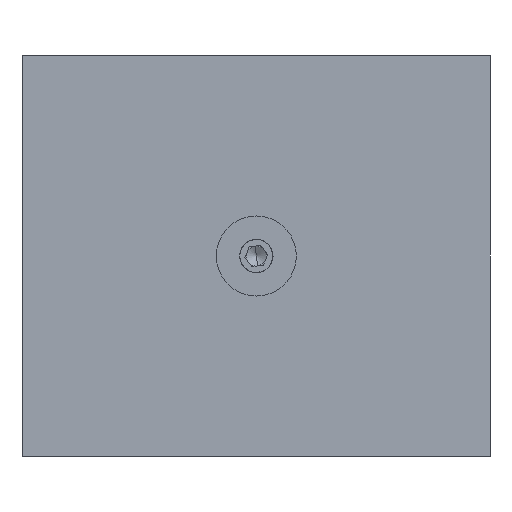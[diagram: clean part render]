
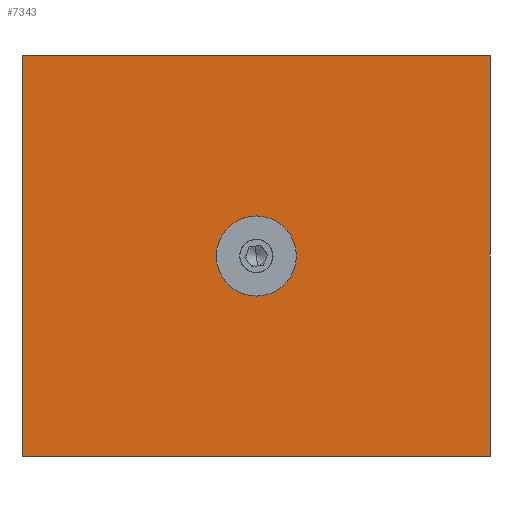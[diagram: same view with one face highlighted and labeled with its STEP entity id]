
A CAD part, front view. The second image highlights one B-rep face of the part: STEP entity #7343.
In plain terms, the highlighted planar face has unit normal (0, -1, 0).
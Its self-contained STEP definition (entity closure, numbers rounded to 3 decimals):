
#179 = DIRECTION ( 'NONE',  ( 1., 0., 0. ) ) ;
#239 = DIRECTION ( 'NONE',  ( 0., 1., 0. ) ) ;
#436 = ORIENTED_EDGE ( 'NONE', *, *, #3684, .T. ) ;
#613 = CARTESIAN_POINT ( 'NONE',  ( 0., -22.5, 0. ) ) ;
#642 = DIRECTION ( 'NONE',  ( 0., 0., -1. ) ) ;
#899 = DIRECTION ( 'NONE',  ( 0., 0., 1. ) ) ;
#1352 = DIRECTION ( 'NONE',  ( 1., 0., 0. ) ) ;
#1363 = VECTOR ( 'NONE', #642, 1000. ) ;
#1595 = VECTOR ( 'NONE', #179, 1000. ) ;
#1631 = FACE_OUTER_BOUND ( 'NONE', #2713, .T. ) ;
#1637 = VERTEX_POINT ( 'NONE', #4042 ) ;
#1762 = ORIENTED_EDGE ( 'NONE', *, *, #4234, .F. ) ;
#1800 = CARTESIAN_POINT ( 'NONE',  ( 17.5, -22.5, 15. ) ) ;
#1846 = DIRECTION ( 'NONE',  ( 0., 0., -1. ) ) ;
#1901 = AXIS2_PLACEMENT_3D ( 'NONE', #2453, #7542, #1907 ) ;
#1907 = DIRECTION ( 'NONE',  ( 0., 0., -1. ) ) ;
#2243 = EDGE_CURVE ( 'NONE', #7212, #6926, #4700, .T. ) ;
#2453 = CARTESIAN_POINT ( 'NONE',  ( 0., -22.5, 0. ) ) ;
#2564 = CARTESIAN_POINT ( 'NONE',  ( 17.5, -22.5, 15. ) ) ;
#2578 = CARTESIAN_POINT ( 'NONE',  ( -17.5, -22.5, 15. ) ) ;
#2710 = CARTESIAN_POINT ( 'NONE',  ( 0., -22.5, -3. ) ) ;
#2713 = EDGE_LOOP ( 'NONE', ( #436, #1762, #8023, #6090 ) ) ;
#2804 = EDGE_CURVE ( 'NONE', #6926, #7212, #4971, .T. ) ;
#2929 = CARTESIAN_POINT ( 'NONE',  ( -17.5, -22.5, 15. ) ) ;
#3226 = AXIS2_PLACEMENT_3D ( 'NONE', #2929, #239, #899 ) ;
#3329 = ORIENTED_EDGE ( 'NONE', *, *, #2243, .F. ) ;
#3350 = VERTEX_POINT ( 'NONE', #1800 ) ;
#3684 = EDGE_CURVE ( 'NONE', #7009, #5924, #3919, .T. ) ;
#3721 = DIRECTION ( 'NONE',  ( 0., -1., 0. ) ) ;
#3828 = EDGE_CURVE ( 'NONE', #1637, #3350, #5861, .T. ) ;
#3919 = LINE ( 'NONE', #6486, #1595 ) ;
#4042 = CARTESIAN_POINT ( 'NONE',  ( -17.5, -22.5, 15. ) ) ;
#4127 = VECTOR ( 'NONE', #1846, 1000. ) ;
#4234 = EDGE_CURVE ( 'NONE', #3350, #5924, #5774, .T. ) ;
#4700 = CIRCLE ( 'NONE', #1901, 3. ) ;
#4971 = CIRCLE ( 'NONE', #7505, 3. ) ;
#5350 = CARTESIAN_POINT ( 'NONE',  ( 17.5, -22.5, -15. ) ) ;
#5774 = LINE ( 'NONE', #2564, #4127 ) ;
#5860 = ORIENTED_EDGE ( 'NONE', *, *, #2804, .F. ) ;
#5861 = LINE ( 'NONE', #2578, #7594 ) ;
#5924 = VERTEX_POINT ( 'NONE', #5350 ) ;
#6090 = ORIENTED_EDGE ( 'NONE', *, *, #7717, .T. ) ;
#6274 = DIRECTION ( 'NONE',  ( 0., 0., -1. ) ) ;
#6361 = CARTESIAN_POINT ( 'NONE',  ( -17.5, -22.5, 15. ) ) ;
#6486 = CARTESIAN_POINT ( 'NONE',  ( -17.5, -22.5, -15. ) ) ;
#6620 = PLANE ( 'NONE',  #3226 ) ;
#6660 = EDGE_LOOP ( 'NONE', ( #5860, #3329 ) ) ;
#6914 = CARTESIAN_POINT ( 'NONE',  ( 0., -22.5, 3. ) ) ;
#6926 = VERTEX_POINT ( 'NONE', #2710 ) ;
#7009 = VERTEX_POINT ( 'NONE', #8042 ) ;
#7021 = LINE ( 'NONE', #6361, #1363 ) ;
#7212 = VERTEX_POINT ( 'NONE', #6914 ) ;
#7343 = ADVANCED_FACE ( 'NONE', ( #7349, #1631 ), #6620, .F. ) ;
#7349 = FACE_BOUND ( 'NONE', #6660, .T. ) ;
#7505 = AXIS2_PLACEMENT_3D ( 'NONE', #613, #3721, #6274 ) ;
#7542 = DIRECTION ( 'NONE',  ( 0., -1., 0. ) ) ;
#7594 = VECTOR ( 'NONE', #1352, 1000. ) ;
#7717 = EDGE_CURVE ( 'NONE', #1637, #7009, #7021, .T. ) ;
#8023 = ORIENTED_EDGE ( 'NONE', *, *, #3828, .F. ) ;
#8042 = CARTESIAN_POINT ( 'NONE',  ( -17.5, -22.5, -15. ) ) ;
